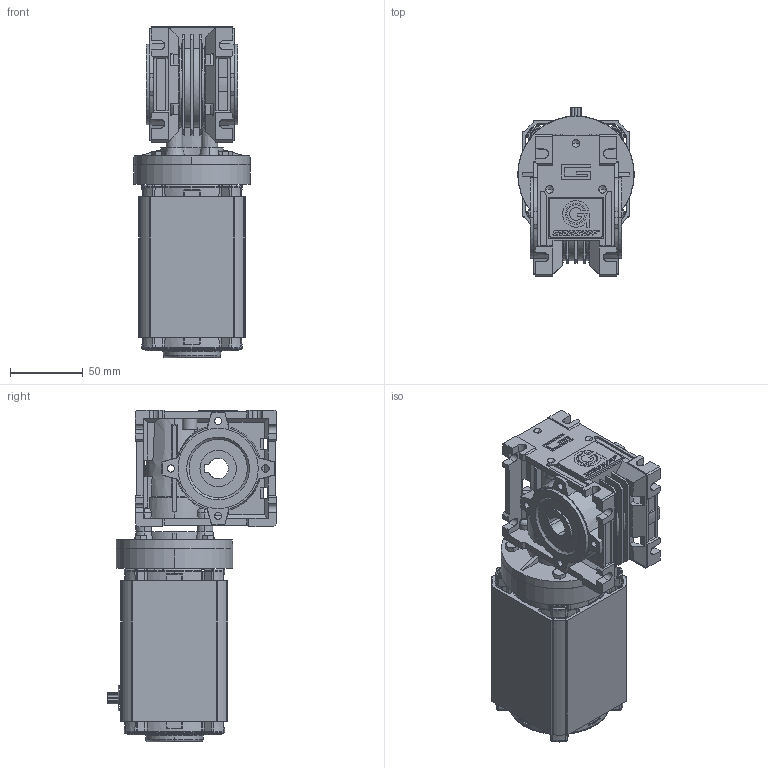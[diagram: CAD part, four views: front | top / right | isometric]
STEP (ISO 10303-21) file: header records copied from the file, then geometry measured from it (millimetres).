
FILE_DESCRIPTION (( 'STEP AP214' ), '1' );
FILE_NAME ('BL6520-RA3000T.STEP', '2013-01-29T15:17:48', ( '' ), ( '' ), 'SwSTEP 2.0', 'SolidWorks 2013', '' );
FILE_SCHEMA (( 'AUTOMOTIVE_DESIGN' ));
Length unit declared in the file: inch
Products named in the file (1): BL6520-RA3000T
Bounding box: 80.01 x 115.87 x 227.5 mm (x, y, z)
Surface area: 150028.3 mm2 (no closed solid volume)
Topology: 0 solids, 52 shells, 1572 faces, 5532 edges, 3879 vertices
Faces by surface type: plane 726, cylinder 327, cone 290, torus 149, bspline 74, sphere 6
Entity records: 88728 total; most frequent: CARTESIAN_POINT 22653, DIRECTION 9163, ORIENTED_EDGE 9135, EDGE_CURVE 5518, VERTEX_POINT 3879, AXIS2_PLACEMENT_3D 3203, LINE 2757, VECTOR 2757
